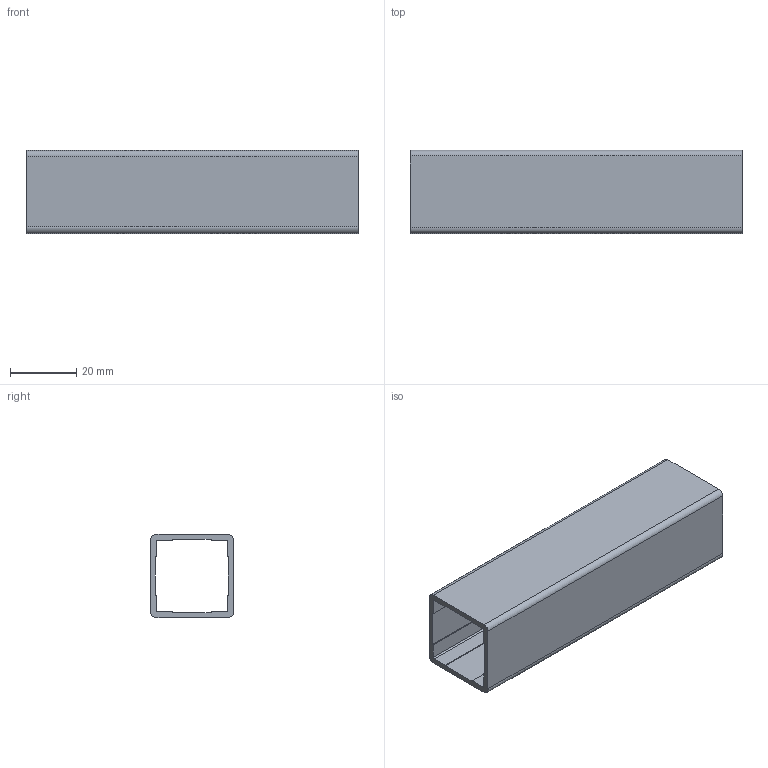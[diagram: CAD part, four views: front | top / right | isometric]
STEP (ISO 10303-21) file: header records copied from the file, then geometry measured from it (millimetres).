
FILE_DESCRIPTION (( 'STEP AP203' ), '1' );
FILE_NAME ('B040925.STEP', '2017-03-22T12:32:44', ( 'Localadmin' ), ( 'Microsoft' ), 'SwSTEP 2.0', 'SolidWorks 2016', '' );
FILE_SCHEMA (( 'CONFIG_CONTROL_DESIGN' ));
Length unit declared in the file: millimetre
Products named in the file (1): B040925
Bounding box: 100 x 25.04 x 25 mm (x, y, z)
Volume: 14906.5 mm3; surface area: 18743.1 mm2
Topology: 1 solids, 1 shells, 34 faces, 96 edges, 64 vertices
Faces by surface type: plane 26, cylinder 8
Entity records: 1177 total; most frequent: CARTESIAN_POINT 195, ORIENTED_EDGE 192, DIRECTION 182, EDGE_CURVE 96, VECTOR 80, LINE 80, VERTEX_POINT 64, AXIS2_PLACEMENT_3D 51
